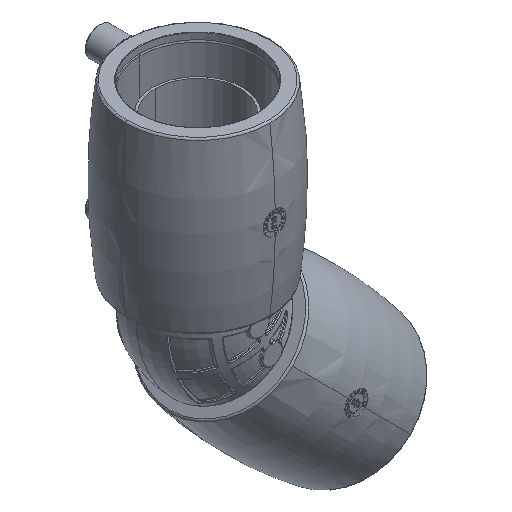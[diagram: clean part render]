
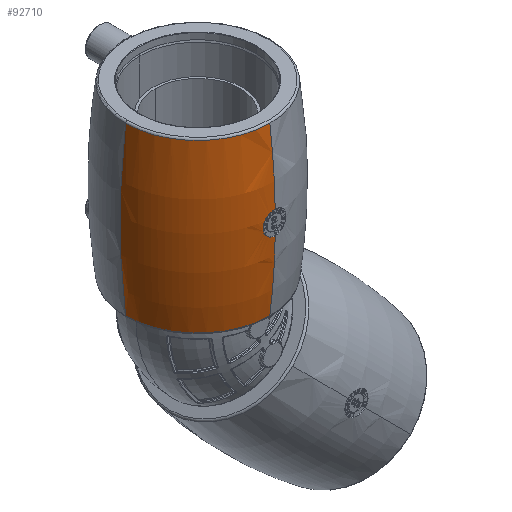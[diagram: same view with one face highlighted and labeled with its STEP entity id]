
A CAD part, isometric view. The second image highlights one B-rep face of the part: STEP entity #92710.
In plain terms, the highlighted toroidal (fillet/blend) face has major radius 307.5 mm and minor radius 350 mm.
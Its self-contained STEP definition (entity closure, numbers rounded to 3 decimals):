
#4573 = AXIS2_PLACEMENT_3D ( 'NONE', #33520, #33516, #33524 ) ;
#5788 = EDGE_CURVE ( 'NONE', #85729, #86622, #111753, .T. ) ;
#5808 = EDGE_CURVE ( 'NONE', #86443, #86609, #111774, .T. ) ;
#8955 = VERTEX_POINT ( 'NONE', #50126 ) ;
#8956 = VERTEX_POINT ( 'NONE', #50127 ) ;
#9538 = EDGE_LOOP ( 'NONE', ( #90418, #90421, #90423, #90425, #90427, #90429, #90431, #90434 ) ) ;
#11199 = EDGE_CURVE ( 'NONE', #85751, #85729, #111842, .T. ) ;
#11203 = EDGE_CURVE ( 'NONE', #86609, #85733, #111843, .T. ) ;
#13981 = AXIS2_PLACEMENT_3D ( 'NONE', #118865, #118868, #118871 ) ;
#14000 = AXIS2_PLACEMENT_3D ( 'NONE', #118974, #118977, #118980 ) ;
#14037 = AXIS2_PLACEMENT_3D ( 'NONE', #50938, #50940, #50941 ) ;
#14039 = AXIS2_PLACEMENT_3D ( 'NONE', #51007, #51009, #51010 ) ;
#16838 = CARTESIAN_POINT ( 'NONE',  ( 0., -42.444, 57.039 ) ) ;
#16841 = CARTESIAN_POINT ( 'NONE',  ( 0., -39.513, 108.919 ) ) ;
#16858 = CARTESIAN_POINT ( 'NONE',  ( 0., -42.444, 69.539 ) ) ;
#17266 = CARTESIAN_POINT ( 'NONE',  ( -39.513, 0., 17.659 ) ) ;
#17352 = CARTESIAN_POINT ( 'NONE',  ( 0., -39.513, 17.659 ) ) ;
#17358 = CARTESIAN_POINT ( 'NONE',  ( -39.513, 0., 108.919 ) ) ;
#26908 = EDGE_CURVE ( 'NONE', #86443, #86622, #100858, .T. ) ;
#33516 = DIRECTION ( 'NONE',  ( 0., 0., 1. ) ) ;
#33520 = CARTESIAN_POINT ( 'NONE',  ( 0., 0., 63.289 ) ) ;
#33524 = DIRECTION ( 'NONE',  ( 1., 0., 0. ) ) ;
#34913 = FACE_OUTER_BOUND ( 'NONE', #9538, .T. ) ;
#34939 = TOROIDAL_SURFACE ( 'NONE', #4573, -307.5, 350. ) ;
#50126 = CARTESIAN_POINT ( 'NONE',  ( -6.132, -42.053, 64.499 ) ) ;
#50127 = CARTESIAN_POINT ( 'NONE',  ( -6.132, -42.053, 62.078 ) ) ;
#50938 = CARTESIAN_POINT ( 'NONE',  ( 0., 307.5, 63.289 ) ) ;
#50940 = DIRECTION ( 'NONE',  ( -1., 0., 0. ) ) ;
#50941 = DIRECTION ( 'NONE',  ( 0., 0., 1. ) ) ;
#51007 = CARTESIAN_POINT ( 'NONE',  ( 0., 307.5, 63.289 ) ) ;
#51009 = DIRECTION ( 'NONE',  ( -1., 0., 0. ) ) ;
#51010 = DIRECTION ( 'NONE',  ( 0., 0., 1. ) ) ;
#85729 = VERTEX_POINT ( 'NONE', #16841 ) ;
#85733 = VERTEX_POINT ( 'NONE', #16838 ) ;
#85751 = VERTEX_POINT ( 'NONE', #16858 ) ;
#86443 = VERTEX_POINT ( 'NONE', #17266 ) ;
#86609 = VERTEX_POINT ( 'NONE', #17352 ) ;
#86622 = VERTEX_POINT ( 'NONE', #17358 ) ;
#90418 = ORIENTED_EDGE ( 'NONE', *, *, #26908, .F. ) ;
#90421 = ORIENTED_EDGE ( 'NONE', *, *, #5808, .T. ) ;
#90423 = ORIENTED_EDGE ( 'NONE', *, *, #11203, .T. ) ;
#90425 = ORIENTED_EDGE ( 'NONE', *, *, #97848, .F. ) ;
#90427 = ORIENTED_EDGE ( 'NONE', *, *, #97850, .F. ) ;
#90429 = ORIENTED_EDGE ( 'NONE', *, *, #97852, .F. ) ;
#90431 = ORIENTED_EDGE ( 'NONE', *, *, #11199, .T. ) ;
#90434 = ORIENTED_EDGE ( 'NONE', *, *, #5788, .T. ) ;
#92710 = ADVANCED_FACE ( 'NONE', ( #34913 ), #34939, .T. ) ;
#97848 = EDGE_CURVE ( 'NONE', #8956, #85733, #110641, .T. ) ;
#97850 = EDGE_CURVE ( 'NONE', #8955, #8956, #110642, .T. ) ;
#97852 = EDGE_CURVE ( 'NONE', #85751, #8955, #110645, .T. ) ;
#100566 = CARTESIAN_POINT ( 'NONE',  ( 307.5, 0., 63.289 ) ) ;
#100567 = DIRECTION ( 'NONE',  ( 0., 1., 0. ) ) ;
#100568 = DIRECTION ( 'NONE',  ( -1., 0., 0. ) ) ;
#100858 = CIRCLE ( 'NONE', #122386, 350. ) ;
#110641 = B_SPLINE_CURVE_WITH_KNOTS ( 'NONE', 3,
 ( #126665, #126667, #126676, #126678, #126680, #126681, #126683, #126685, #126687, #126689, #126691, #126693, #126694, #126696, #126698, #126700, #126702, #126704 ),
 .UNSPECIFIED., .F., .F.,
 ( 4, 2, 2, 2, 2, 2, 2, 2, 4 ),
 ( 0.012, 0.013, 0.014, 0.015, 0.016, 0.017, 0.018, 0.019, 0.02 ),
 .UNSPECIFIED. ) ;
#110642 = B_SPLINE_CURVE_WITH_KNOTS ( 'NONE', 3,
 ( #126657, #126674, #126710, #126712, #126714 ),
 .UNSPECIFIED., .F., .F.,
 ( 4, 1, 4 ),
 ( 0., 0.001, 0.002 ),
 .UNSPECIFIED. ) ;
#110645 = B_SPLINE_CURVE_WITH_KNOTS ( 'NONE', 3,
 ( #126706, #126708, #126719, #126721, #126723, #126725, #126727, #126729, #126730, #126732, #126734, #126736, #126738, #126740, #126742, #126743, #126745, #126747 ),
 .UNSPECIFIED., .F., .F.,
 ( 4, 2, 2, 2, 2, 2, 2, 2, 4 ),
 ( 0.001, 0.002, 0.003, 0.004, 0.005, 0.006, 0.007, 0.008, 0.009 ),
 .UNSPECIFIED. ) ;
#111753 = CIRCLE ( 'NONE', #13981, 39.513 ) ;
#111774 = CIRCLE ( 'NONE', #14000, 39.513 ) ;
#111842 = CIRCLE ( 'NONE', #14037, 350. ) ;
#111843 = CIRCLE ( 'NONE', #14039, 350. ) ;
#118865 = CARTESIAN_POINT ( 'NONE',  ( 0., 0., 108.919 ) ) ;
#118868 = DIRECTION ( 'NONE',  ( 0., 0., -1. ) ) ;
#118871 = DIRECTION ( 'NONE',  ( -1., 0., 0. ) ) ;
#118974 = CARTESIAN_POINT ( 'NONE',  ( 0., 0., 17.659 ) ) ;
#118977 = DIRECTION ( 'NONE',  ( 0., 0., 1. ) ) ;
#118980 = DIRECTION ( 'NONE',  ( 1., 0., 0. ) ) ;
#122386 = AXIS2_PLACEMENT_3D ( 'NONE', #100566, #100567, #100568 ) ;
#126657 = CARTESIAN_POINT ( 'NONE',  ( -6.132, -42.053, 64.499 ) ) ;
#126665 = CARTESIAN_POINT ( 'NONE',  ( -6.132, -42.053, 62.078 ) ) ;
#126667 = CARTESIAN_POINT ( 'NONE',  ( -6.062, -42.062, 61.728 ) ) ;
#126674 = CARTESIAN_POINT ( 'NONE',  ( -6.211, -42.043, 64.096 ) ) ;
#126676 = CARTESIAN_POINT ( 'NONE',  ( -5.962, -42.075, 61.38 ) ) ;
#126678 = CARTESIAN_POINT ( 'NONE',  ( -5.704, -42.106, 60.708 ) ) ;
#126680 = CARTESIAN_POINT ( 'NONE',  ( -5.547, -42.125, 60.387 ) ) ;
#126681 = CARTESIAN_POINT ( 'NONE',  ( -5.181, -42.166, 59.775 ) ) ;
#126683 = CARTESIAN_POINT ( 'NONE',  ( -4.969, -42.188, 59.48 ) ) ;
#126685 = CARTESIAN_POINT ( 'NONE',  ( -4.5, -42.235, 58.936 ) ) ;
#126687 = CARTESIAN_POINT ( 'NONE',  ( -4.245, -42.258, 58.687 ) ) ;
#126689 = CARTESIAN_POINT ( 'NONE',  ( -3.693, -42.304, 58.234 ) ) ;
#126691 = CARTESIAN_POINT ( 'NONE',  ( -3.394, -42.326, 58.028 ) ) ;
#126693 = CARTESIAN_POINT ( 'NONE',  ( -2.77, -42.366, 57.675 ) ) ;
#126694 = CARTESIAN_POINT ( 'NONE',  ( -2.445, -42.383, 57.526 ) ) ;
#126696 = CARTESIAN_POINT ( 'NONE',  ( -1.773, -42.413, 57.285 ) ) ;
#126698 = CARTESIAN_POINT ( 'NONE',  ( -1.421, -42.425, 57.192 ) ) ;
#126700 = CARTESIAN_POINT ( 'NONE',  ( -0.713, -42.44, 57.069 ) ) ;
#126702 = CARTESIAN_POINT ( 'NONE',  ( -0.357, -42.444, 57.039 ) ) ;
#126704 = CARTESIAN_POINT ( 'NONE',  ( 0., -42.444, 57.039 ) ) ;
#126706 = CARTESIAN_POINT ( 'NONE',  ( 0., -42.444, 69.539 ) ) ;
#126708 = CARTESIAN_POINT ( 'NONE',  ( -0.358, -42.444, 69.539 ) ) ;
#126710 = CARTESIAN_POINT ( 'NONE',  ( -6.289, -42.033, 63.289 ) ) ;
#126712 = CARTESIAN_POINT ( 'NONE',  ( -6.211, -42.043, 62.482 ) ) ;
#126714 = CARTESIAN_POINT ( 'NONE',  ( -6.132, -42.053, 62.078 ) ) ;
#126719 = CARTESIAN_POINT ( 'NONE',  ( -0.713, -42.44, 69.508 ) ) ;
#126721 = CARTESIAN_POINT ( 'NONE',  ( -1.422, -42.425, 69.386 ) ) ;
#126723 = CARTESIAN_POINT ( 'NONE',  ( -1.773, -42.413, 69.293 ) ) ;
#126725 = CARTESIAN_POINT ( 'NONE',  ( -2.446, -42.383, 69.052 ) ) ;
#126727 = CARTESIAN_POINT ( 'NONE',  ( -2.77, -42.366, 68.903 ) ) ;
#126729 = CARTESIAN_POINT ( 'NONE',  ( -3.396, -42.326, 68.548 ) ) ;
#126730 = CARTESIAN_POINT ( 'NONE',  ( -3.694, -42.303, 68.343 ) ) ;
#126732 = CARTESIAN_POINT ( 'NONE',  ( -4.245, -42.258, 67.89 ) ) ;
#126734 = CARTESIAN_POINT ( 'NONE',  ( -4.5, -42.235, 67.641 ) ) ;
#126736 = CARTESIAN_POINT ( 'NONE',  ( -4.97, -42.188, 67.096 ) ) ;
#126738 = CARTESIAN_POINT ( 'NONE',  ( -5.181, -42.166, 66.803 ) ) ;
#126740 = CARTESIAN_POINT ( 'NONE',  ( -5.547, -42.125, 66.191 ) ) ;
#126742 = CARTESIAN_POINT ( 'NONE',  ( -5.704, -42.106, 65.87 ) ) ;
#126743 = CARTESIAN_POINT ( 'NONE',  ( -5.963, -42.075, 65.197 ) ) ;
#126745 = CARTESIAN_POINT ( 'NONE',  ( -6.063, -42.062, 64.85 ) ) ;
#126747 = CARTESIAN_POINT ( 'NONE',  ( -6.132, -42.053, 64.499 ) ) ;
